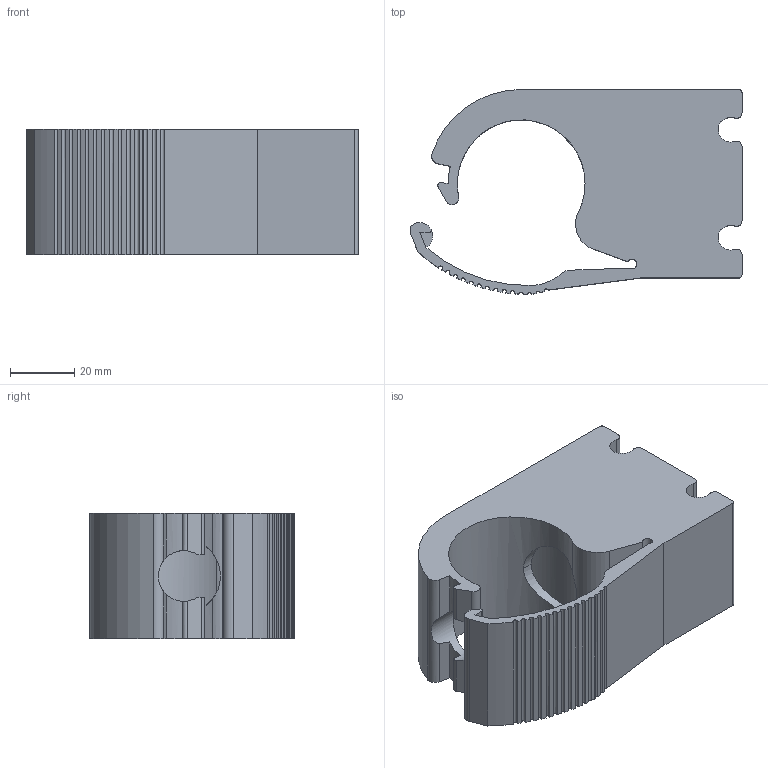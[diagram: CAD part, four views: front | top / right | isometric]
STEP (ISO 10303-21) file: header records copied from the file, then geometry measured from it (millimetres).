
FILE_DESCRIPTION((''),'2;1');
FILE_NAME('AU15402200','2017-05-16T',('Administrator'),(''),'PRO/ENGINEER BY PARAMETRIC TECHNOLOGY CORPORATION, 2009360','PRO/ENGINEER BY PARAMETRIC TECHNOLOGY CORPORATION, 2009360','');
FILE_SCHEMA(('AUTOMOTIVE_DESIGN_CC2 { 1 2 10303 214 -1 1 5 2 }'));
Length unit declared in the file: millimetre
Products named in the file (1): AU15402200
Bounding box: 103.73 x 63.99 x 39.11 mm (x, y, z)
Volume: 135696.8 mm3; surface area: 28679.5 mm2
Topology: 1 solids, 3 shells, 96 faces, 355 edges, 266 vertices
Faces by surface type: cylinder 68, plane 28
Entity records: 5246 total; most frequent: CARTESIAN_POINT 926, DIRECTION 711, ORIENTED_EDGE 710, PRESENTATION_STYLE_ASSIGNMENT 356, STYLED_ITEM 356, CURVE_STYLE 355, EDGE_CURVE 355, AXIS2_PLACEMENT_3D 294
